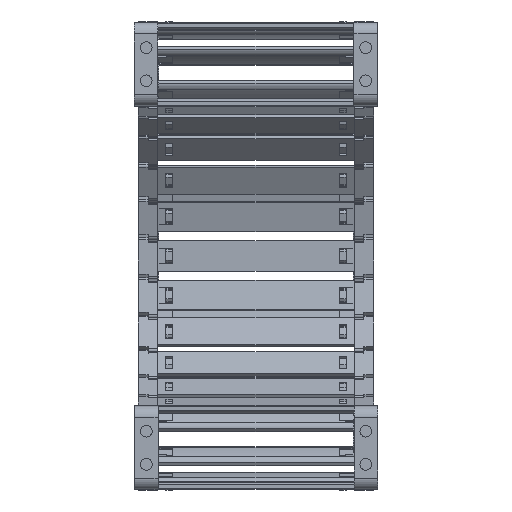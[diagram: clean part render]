
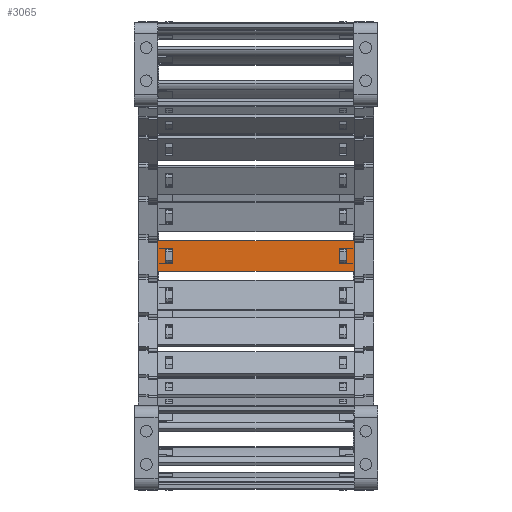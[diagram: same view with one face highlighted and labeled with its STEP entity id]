
A CAD part, left-side view. The second image highlights one B-rep face of the part: STEP entity #3065.
In plain terms, the highlighted planar face has unit normal (-1, 0, 0) as drawn and (0, 1, 0) by its records, which use the part's own axes.
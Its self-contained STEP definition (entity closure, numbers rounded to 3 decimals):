
#2485=DIRECTION('',(0.,0.,1.));
#2486=VECTOR('',#2485,15.8);
#2487=CARTESIAN_POINT('',(85.74,1.5,-7.9));
#2488=LINE('',#2487,#2486);
#2489=DIRECTION('',(-1.,0.,0.));
#2490=VECTOR('',#2489,100.5);
#2491=CARTESIAN_POINT('',(85.74,1.5,7.9));
#2492=LINE('',#2491,#2490);
#2493=DIRECTION('',(0.,0.,-1.));
#2494=VECTOR('',#2493,15.8);
#2495=CARTESIAN_POINT('',(-14.76,1.5,7.9));
#2496=LINE('',#2495,#2494);
#2497=DIRECTION('',(1.,0.,0.));
#2498=VECTOR('',#2497,3.648);
#2499=CARTESIAN_POINT('',(78.122,1.5,4.075));
#2500=LINE('',#2499,#2498);
#2501=DIRECTION('',(0.,0.,-1.));
#2502=VECTOR('',#2501,8.15);
#2503=CARTESIAN_POINT('',(81.77,1.5,4.075));
#2504=LINE('',#2503,#2502);
#2505=DIRECTION('',(-1.,0.,0.));
#2506=VECTOR('',#2505,3.648);
#2507=CARTESIAN_POINT('',(81.77,1.5,-4.075));
#2508=LINE('',#2507,#2506);
#2509=DIRECTION('',(0.,0.,-1.));
#2510=VECTOR('',#2509,8.15);
#2511=CARTESIAN_POINT('',(-7.142,1.5,4.075));
#2512=LINE('',#2511,#2510);
#2513=DIRECTION('',(-1.,0.,0.));
#2514=VECTOR('',#2513,3.648);
#2515=CARTESIAN_POINT('',(-7.142,1.5,-4.075));
#2516=LINE('',#2515,#2514);
#2517=DIRECTION('',(0.,0.,1.));
#2518=VECTOR('',#2517,8.15);
#2519=CARTESIAN_POINT('',(-10.79,1.5,-4.075));
#2520=LINE('',#2519,#2518);
#2521=DIRECTION('',(1.,0.,0.));
#2522=VECTOR('',#2521,3.648);
#2523=CARTESIAN_POINT('',(-10.79,1.5,4.075));
#2524=LINE('',#2523,#2522);
#2529=DIRECTION('',(-1.,0.,0.));
#2530=VECTOR('',#2529,100.5);
#2531=CARTESIAN_POINT('',(85.74,1.5,-7.9));
#2532=LINE('',#2531,#2530);
#2650=DIRECTION('',(0.,0.,-1.));
#2651=VECTOR('',#2650,8.15);
#2652=CARTESIAN_POINT('',(78.122,1.5,4.075));
#2653=LINE('',#2652,#2651);
#2835=CARTESIAN_POINT('',(81.77,1.5,4.075));
#2836=VERTEX_POINT('',#2835);
#2837=CARTESIAN_POINT('',(78.122,1.5,4.075));
#2838=VERTEX_POINT('',#2837);
#2879=CARTESIAN_POINT('',(78.122,1.5,-4.075));
#2880=VERTEX_POINT('',#2879);
#2881=CARTESIAN_POINT('',(81.77,1.5,-4.075));
#2882=VERTEX_POINT('',#2881);
#2883=CARTESIAN_POINT('',(85.74,1.5,7.9));
#2885=VERTEX_POINT('',#2883);
#2887=CARTESIAN_POINT('',(85.74,1.5,-7.9));
#2888=VERTEX_POINT('',#2887);
#2911=CARTESIAN_POINT('',(-7.142,1.5,4.075));
#2912=CARTESIAN_POINT('',(-7.142,1.5,-4.075));
#2913=VERTEX_POINT('',#2911);
#2914=VERTEX_POINT('',#2912);
#2915=CARTESIAN_POINT('',(-10.79,1.5,-4.075));
#2916=VERTEX_POINT('',#2915);
#2917=CARTESIAN_POINT('',(-10.79,1.5,4.075));
#2918=VERTEX_POINT('',#2917);
#2919=CARTESIAN_POINT('',(-14.76,1.5,7.9));
#2920=VERTEX_POINT('',#2919);
#2923=CARTESIAN_POINT('',(-14.76,1.5,-7.9));
#2924=VERTEX_POINT('',#2923);
#3034=CARTESIAN_POINT('',(117.48,1.5,10.061));
#3035=DIRECTION('',(0.,-1.,0.));
#3036=DIRECTION('',(0.,0.,-1.));
#3037=AXIS2_PLACEMENT_3D('',#3034,#3035,#3036);
#3038=PLANE('',#3037);
#3039=ORIENTED_EDGE('',*,*,#2973,.T.);
#3040=ORIENTED_EDGE('',*,*,#2999,.T.);
#3041=ORIENTED_EDGE('',*,*,#3012,.T.);
#3043=ORIENTED_EDGE('',*,*,#3042,.F.);
#3044=EDGE_LOOP('',(#3039,#3040,#3041,#3043));
#3045=FACE_OUTER_BOUND('',#3044,.F.);
#3047=ORIENTED_EDGE('',*,*,#3046,.F.);
#3048=ORIENTED_EDGE('',*,*,#2936,.T.);
#3050=ORIENTED_EDGE('',*,*,#3049,.T.);
#3052=ORIENTED_EDGE('',*,*,#3051,.T.);
#3053=EDGE_LOOP('',(#3047,#3048,#3050,#3052));
#3054=FACE_BOUND('',#3053,.F.);
#3056=ORIENTED_EDGE('',*,*,#3055,.T.);
#3058=ORIENTED_EDGE('',*,*,#3057,.T.);
#3060=ORIENTED_EDGE('',*,*,#3059,.T.);
#3062=ORIENTED_EDGE('',*,*,#3061,.T.);
#3063=EDGE_LOOP('',(#3056,#3058,#3060,#3062));
#3064=FACE_BOUND('',#3063,.F.);
#3065=ADVANCED_FACE('',(#3045,#3054,#3064),#3038,.F.);
#2936=EDGE_CURVE('',#2838,#2836,#2500,.T.);
#2973=EDGE_CURVE('',#2888,#2885,#2488,.T.);
#2999=EDGE_CURVE('',#2885,#2920,#2492,.T.);
#3012=EDGE_CURVE('',#2920,#2924,#2496,.T.);
#3042=EDGE_CURVE('',#2888,#2924,#2532,.T.);
#3046=EDGE_CURVE('',#2838,#2880,#2653,.T.);
#3049=EDGE_CURVE('',#2836,#2882,#2504,.T.);
#3051=EDGE_CURVE('',#2882,#2880,#2508,.T.);
#3055=EDGE_CURVE('',#2913,#2914,#2512,.T.);
#3057=EDGE_CURVE('',#2914,#2916,#2516,.T.);
#3059=EDGE_CURVE('',#2916,#2918,#2520,.T.);
#3061=EDGE_CURVE('',#2918,#2913,#2524,.T.);
